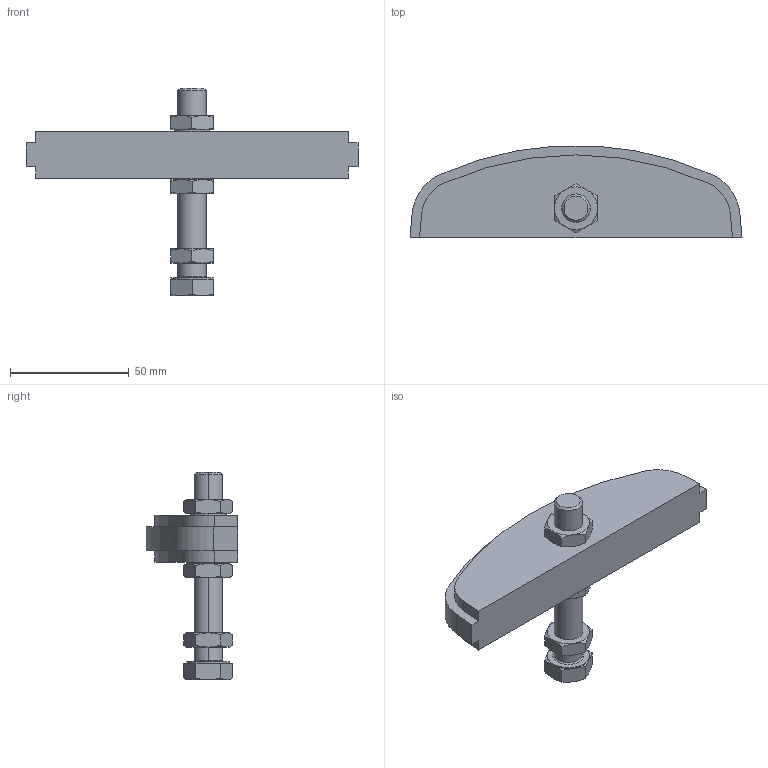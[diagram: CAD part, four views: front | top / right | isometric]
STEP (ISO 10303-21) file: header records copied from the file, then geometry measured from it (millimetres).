
FILE_DESCRIPTION (( 'STEP AP203' ), '1' );
FILE_NAME ('GA 3-4S M12 cod. 94081901.STEP', '2017-08-02T08:23:58', ( '' ), ( '' ), 'SwSTEP 2.0', 'SolidWorks 2016', '' );
FILE_SCHEMA (( 'CONFIG_CONTROL_DESIGN' ));
Length unit declared in the file: millimetre
Products named in the file (5): GA 3-4S M12 cod. 94081901; GA ISO 12B-1; DS 12-15-20; ISO 4017 - M12 x 80-C_ISO 4017 - M12 x 80-C; ISO - 4035 - M12 - N_ISO - 4035 - M12 - N
Assembly tree (6 placements, depth 2):
  GA 3-4S M12 cod. 94081901
    GA ISO 12B-1
    DS 12-15-20
    ISO 4017 - M12 x 80-C_ISO 4017 - M12 x 80-C
    ISO - 4035 - M12 - N_ISO - 4035 - M12 - N  x3
Bounding box: 140 x 38.75 x 87.5 mm (x, y, z)
Volume: 95975.9 mm3; surface area: 24508.9 mm2
Topology: 6 solids, 6 shells, 141 faces, 312 edges, 184 vertices
Faces by surface type: cone 56, plane 52, cylinder 31, torus 2
Entity records: 3089 total; most frequent: CARTESIAN_POINT 610, DIRECTION 420, ORIENTED_EDGE 384, EDGE_CURVE 192, AXIS2_PLACEMENT_3D 170, VERTEX_POINT 116, EDGE_LOOP 92, FACE_OUTER_BOUND 85
